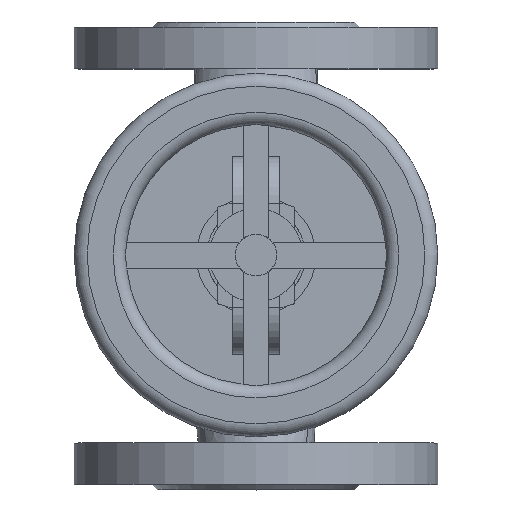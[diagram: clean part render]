
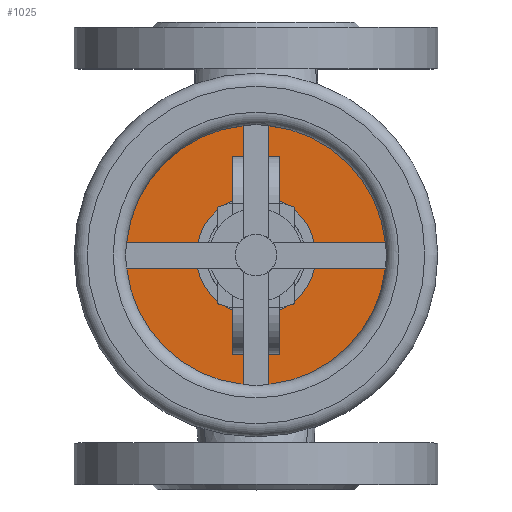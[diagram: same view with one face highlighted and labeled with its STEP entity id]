
A CAD part, top view. The second image highlights one B-rep face of the part: STEP entity #1025.
In plain terms, the highlighted planar face has unit normal (0, 0, 1).
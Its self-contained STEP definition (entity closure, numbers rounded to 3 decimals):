
#1025=ADVANCED_FACE('',(#9524,#9526),#9528,.T.);
#9524=FACE_BOUND('',#9525,.T.);
#9525=EDGE_LOOP('',(#14808));
#9526=FACE_BOUND('',#9527,.T.);
#9527=EDGE_LOOP('',(#14809));
#9528=PLANE('',#9529);
#9529=AXIS2_PLACEMENT_3D('',#9530,#9531,#9532);
#9530=CARTESIAN_POINT('',(0.,0.,72.));
#9531=DIRECTION('',(0.,0.,1.));
#9532=DIRECTION('',(0.,1.,0.));
#14808=ORIENTED_EDGE('',*,*,#15622,.F.);
#14809=ORIENTED_EDGE('',*,*,#15640,.T.);
#15622=EDGE_CURVE('',#16349,#16349,#16350,.T.);
#15640=EDGE_CURVE('',#16377,#16377,#16378,.T.);
#16349=VERTEX_POINT('',#20574);
#16350=CIRCLE('',#20575,59.);
#16377=VERTEX_POINT('',#21066);
#16378=CIRCLE('',#21067,23.);
#20574=CARTESIAN_POINT('',(0.,59.,72.));
#20575=AXIS2_PLACEMENT_3D('',#20576,#20577,#20578);
#20576=CARTESIAN_POINT('',(0.,0.,72.));
#20577=DIRECTION('',(0.,0.,-1.));
#20578=DIRECTION('',(0.,1.,0.));
#21066=CARTESIAN_POINT('',(0.,23.,72.));
#21067=AXIS2_PLACEMENT_3D('',#21068,#21069,#21070);
#21068=CARTESIAN_POINT('',(0.,0.,72.));
#21069=DIRECTION('',(0.,0.,-1.));
#21070=DIRECTION('',(0.,1.,0.));
